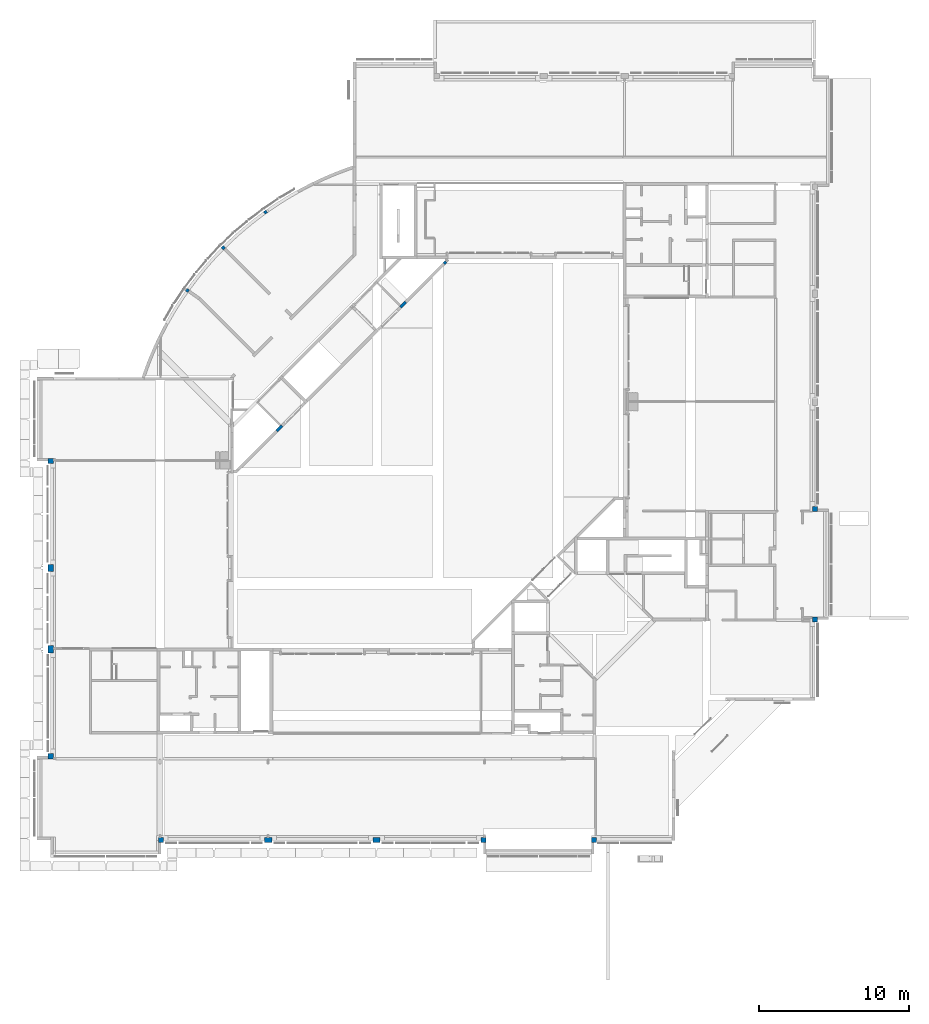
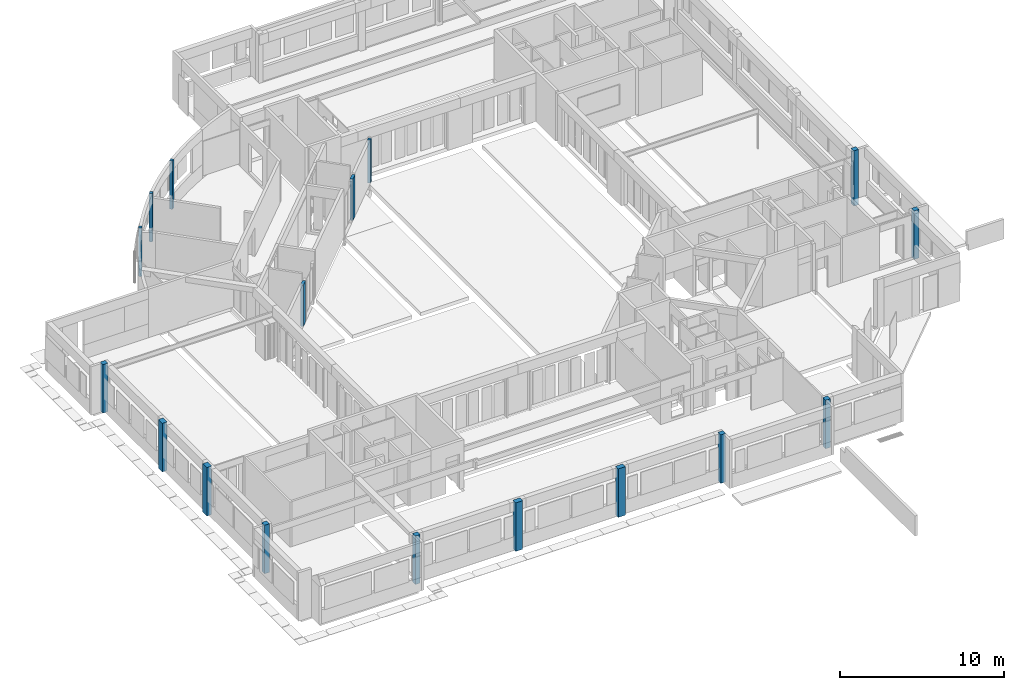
# One storey, part 1 of 30: 17 columns.
"""IFC4X3_ADD2 building model written with IfcOpenShell, lengths in millimetres."""

from ifc_helpers import new_model, si_unit, direction, frame, frame_2d, origin_with_axes, origin_2d_with_axis, place, context, subcontext, project, spatial, rectangle, extrude, source, transform, mapped, material, type_object, type_shapes, element, save


model = new_model("IFC4X3_ADD2")

# Units and contexts
model_context = context("Model", 3, precision=1e-05, world=origin_with_axes(), true_north=direction((0.0, 1.0)))
body_context = subcontext(model_context, "Body", "Model", "MODEL_VIEW")
ifc_project = project(units=[si_unit("LENGTHUNIT", "METRE", prefix="MILLI"), si_unit("AREAUNIT", "SQUARE_METRE"), si_unit("VOLUMEUNIT", "CUBIC_METRE"), si_unit("PLANEANGLEUNIT", "RADIAN"), si_unit("TIMEUNIT", "SECOND"), si_unit("MASSUNIT", "GRAM")], contexts=[model_context])

# Site, building, storey
site_placement = place(None, origin_with_axes())
site = spatial("IfcSite", under=ifc_project, at=site_placement, Name="Site", CompositionType="ELEMENT")
building_placement = place(site_placement, origin_with_axes())
building = spatial("IfcBuilding", under=site, at=building_placement, Name="IFC Building Story")
storey_placement = place(building_placement, origin_with_axes())
storey = spatial("IfcBuildingStorey", under=building, at=storey_placement, Name="000", Elevation=0.0)

# Columns
ifc_material_1 = material(Name="BB_Beton_Bestaand")
column_type_1 = type_object("IfcColumnType", Name="BB_XX_Kolom_ rechthoekig_ center-center_GTL_340 mm x 340 mm15", PredefinedType="NOTDEFINED")
shared_shape_1 = source(origin_with_axes(), body_context, "Body", "SweptSolid", [
    extrude(rectangle(XDim=340.0, YDim=340.000000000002, at=origin_2d_with_axis()), frame((0.0, 0.0, -200.0), z_axis=(0.0, 0.0, 1.0), x_axis=(1.0, 0.0, 0.0)), (0.0, 0.0, 1.0), 3600.0),
])
type_shapes(column_type_1, [shared_shape_1])
for number, where, z_axis, x_axis in (
    (1, (-43425.0, -75.0, 0.0), (0.0, 0.0, 1.0), (1.0, 0.0, 0.0)),
    (2, (-21975.0, -75.0, 0.0), (0.0, 0.0, 1.0), (1.0, 0.0, 0.0)),
    (3, (-14625.0, -75.0, 0.0), (0.0, 0.0, 1.0), (1.0, 0.0, 0.0)),
    (4, (-50775.0, 25155.0, 0.0), (0.0, 0.0, 1.0), (1.0, 0.0, 0.0)),
    (5, (75.0, 14605.0, 0.0), (0.0, 0.0, 1.0), (1.0, 0.0, 0.0)),
    (6, (-50775.0, 5505.0, 0.0), (0.0, 0.0, 1.0), (1.0, 0.0, 0.0)),
):
    element("IfcColumn", number, at=place(storey_placement, frame(where, z_axis=z_axis, x_axis=x_axis)), inside=storey, type_object=column_type_1, material=ifc_material_1, Name="BB_XX_Kolom, rechthoekig, center-center_GTL:340 mm x 340 mm", ObjectType="340 mm x 340 mm", PredefinedType="COLUMN", context=body_context, shape_type="MappedRepresentation", body=[
        mapped(shared_shape_1, transform((0.0, 0.0, 0.0))),
    ])
column_type_2 = type_object("IfcColumnType", Name="BB_XX_Kolom_ rechthoekig_ center-center_GTL_490 mm x 340 mm11", PredefinedType="NOTDEFINED")
shared_shape_2 = source(origin_with_axes(), body_context, "Body", "SweptSolid", [
    extrude(rectangle(XDim=490.0, YDim=340.0, at=origin_2d_with_axis()), frame((0.0, 0.0, -200.0), z_axis=(0.0, 0.0, 1.0), x_axis=(1.0, 0.0, 0.0)), (0.0, 0.0, 1.0), 3600.0),
])
type_shapes(column_type_2, [shared_shape_2])
for number, where, z_axis, x_axis in (
    (7, (-36300.0, -75.0, 0.0), (0.0, 0.0, 1.0), (1.0, 0.0, 0.0)),
    (8, (-29100.0, -75.0, 0.0), (0.0, 0.0, 1.0), (1.0, 0.0, 0.0)),
    (9, (-50775.0, 12630.0, 0.0), (0.0, 0.0, 1.0), (0.0, 1.0, 0.0)),
    (10, (-50775.0, 18030.0, 0.0), (0.0, 0.0, 1.0), (0.0, 1.0, 0.0)),
):
    element("IfcColumn", number, at=place(storey_placement, frame(where, z_axis=z_axis, x_axis=x_axis)), inside=storey, type_object=column_type_2, material=ifc_material_1, Name="BB_XX_Kolom, rechthoekig, center-center_GTL:490 mm x 340 mm", ObjectType="490 mm x 340 mm", PredefinedType="COLUMN", context=body_context, shape_type="MappedRepresentation", body=[
        mapped(shared_shape_2, transform((0.0, 0.0, 0.0))),
    ])
column_type_3 = type_object("IfcColumnType", Name="BB_XX_Kolom_ rechthoekig_ center-center_GTL_200 mm x 200 mm5", PredefinedType="NOTDEFINED")
shared_shape_3 = source(origin_with_axes(), body_context, "Body", "SweptSolid", [
    extrude(rectangle(XDim=200.0000000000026, YDim=199.9999999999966, at=frame_2d((0.0, 0.0), x_axis=(0.5735764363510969, 0.8191520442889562))), frame((-41679.8728215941, 36507.2820318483, -200.0), z_axis=(0.0, 0.0, 1.0), x_axis=(1.0, 0.0, 0.0)), (0.0, 0.0, 1.0), 3600.0),
])
type_shapes(column_type_3, [shared_shape_3])
column_1_placement = place(storey_placement, origin_with_axes())
element("IfcColumn", 11, at=column_1_placement, inside=storey, type_object=column_type_3, material=ifc_material_1, Name="BB_XX_Kolom, rechthoekig, center-center_GTL:200 mm x 200 mm", ObjectType="200 mm x 200 mm", PredefinedType="COLUMN", context=body_context, shape_type="MappedRepresentation", body=[
    mapped(shared_shape_3, transform((0.0, 0.0, 0.0))),
])
column_type_4 = type_object("IfcColumnType", Name="BB_XX_Kolom_ rechthoekig_ center-center_GTL_200 mm x 200 mm7", PredefinedType="NOTDEFINED")
shared_shape_4 = source(origin_with_axes(), body_context, "Body", "SweptSolid", [
    extrude(rectangle(XDim=200.0, YDim=200.0, at=origin_2d_with_axis()), frame((0.0, 0.0, -200.0), z_axis=(0.0, 0.0, 1.0), x_axis=(1.0, 0.0, 0.0)), (0.0, 0.0, 1.0), 3600.0),
])
type_shapes(column_type_4, [shared_shape_4])
for number, where, z_axis, x_axis in (
    (12, (-39289.778820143, 39341.5630046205, 0.0), (0.0, 0.0, 1.0), (0.7071067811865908, -0.7071067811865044, 0.0)),
    (13, (-36482.0163560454, 41709.7599973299, 0.0), (0.0, 0.0, 1.0), (0.5735764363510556, -0.8191520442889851, 0.0)),
):
    element("IfcColumn", number, at=place(storey_placement, frame(where, z_axis=z_axis, x_axis=x_axis)), inside=storey, type_object=column_type_4, material=ifc_material_1, Name="BB_XX_Kolom, rechthoekig, center-center_GTL:200 mm x 200 mm", ObjectType="200 mm x 200 mm", PredefinedType="COLUMN", context=body_context, shape_type="MappedRepresentation", body=[
        mapped(shared_shape_4, transform((0.0, 0.0, 0.0))),
    ])
column_type_5 = type_object("IfcColumnType", Name="BB_XX_Kolom_ rechthoekig_ center-center_GTL_340 mm x 340 mm23", PredefinedType="NOTDEFINED")
shared_shape_5 = source(origin_with_axes(), body_context, "Body", "SweptSolid", [
    extrude(rectangle(XDim=340.0, YDim=340.0, at=origin_2d_with_axis()), frame((75.0, 21955.0, -700.0), z_axis=(0.0, 0.0, 1.0), x_axis=(1.0, 0.0, 0.0)), (0.0, 0.0, 1.0), 4100.0),
])
type_shapes(column_type_5, [shared_shape_5])
column_2_placement = place(storey_placement, origin_with_axes())
element("IfcColumn", 14, at=column_2_placement, inside=storey, type_object=column_type_5, material=ifc_material_1, Name="BB_XX_Kolom, rechthoekig, center-center_GTL:340 mm x 340 mm", ObjectType="340 mm x 340 mm", PredefinedType="COLUMN", context=body_context, shape_type="MappedRepresentation", body=[
    mapped(shared_shape_5, transform((0.0, 0.0, 0.0))),
])
ifc_material_2 = material(Name="Concrete, C30/37")
column_type_6 = type_object("IfcColumnType", Name="BB_XX_Kolom_ rechthoekig_ center-center_GTL_190 mm x 500 mm5", PredefinedType="NOTDEFINED")
shared_shape_6 = source(origin_with_axes(), body_context, "Body", "SweptSolid", [
    extrude(rectangle(XDim=500.0000000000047, YDim=189.9999999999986, at=frame_2d((0.0, 0.0), x_axis=(0.7071067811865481, 0.7071067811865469))), frame((-35559.1307724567, 27335.484910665, -400.0), z_axis=(0.0, 0.0, 1.0), x_axis=(1.0, 0.0, 0.0)), (0.0, 0.0, 1.0), 3070.0),
])
type_shapes(column_type_6, [shared_shape_6])
column_3_placement = place(storey_placement, origin_with_axes())
element("IfcColumn", 15, at=column_3_placement, inside=storey, type_object=column_type_6, material=ifc_material_2, Name="BB_XX_Kolom, rechthoekig, center-center_GTL:190 mm x 500 mm", ObjectType="190 mm x 500 mm", PredefinedType="COLUMN", context=body_context, shape_type="MappedRepresentation", body=[
    mapped(shared_shape_6, transform((0.0, 0.0, 0.0))),
])
column_type_7 = type_object("IfcColumnType", Name="BB_XX_Kolom_ rechthoekig_ center-center_GTL_190 mm x 500 mm7", PredefinedType="NOTDEFINED")
shared_shape_7 = source(origin_with_axes(), body_context, "Body", "SweptSolid", [
    extrude(rectangle(XDim=500.0000000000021, YDim=190.0000000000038, at=frame_2d((0.0, 0.0), x_axis=(0.7071067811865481, 0.7071067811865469))), frame((-27335.4819089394, 35559.1337741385, -400.0), z_axis=(0.0, 0.0, 1.0), x_axis=(1.0, 0.0, 0.0)), (0.0, 0.0, 1.0), 3070.0),
])
type_shapes(column_type_7, [shared_shape_7])
column_4_placement = place(storey_placement, origin_with_axes())
element("IfcColumn", 16, at=column_4_placement, inside=storey, type_object=column_type_7, material=ifc_material_2, Name="BB_XX_Kolom, rechthoekig, center-center_GTL:190 mm x 500 mm", ObjectType="190 mm x 500 mm", PredefinedType="COLUMN", context=body_context, shape_type="MappedRepresentation", body=[
    mapped(shared_shape_7, transform((0.0, 0.0, 0.0))),
])
column_type_8 = type_object("IfcColumnType", Name="BB_XX_Kolom_ rechthoekig_ center-center_GTL_190 mm x 200 mm3", PredefinedType="NOTDEFINED")
shared_shape_8 = source(origin_with_axes(), body_context, "Body", "SweptSolid", [
    extrude(rectangle(XDim=200.0000000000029, YDim=190.0000000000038, at=frame_2d((0.0, 0.0), x_axis=(0.7071067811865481, 0.7071067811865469))), frame((-24540.06754798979, 38354.5481350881, -400.0), z_axis=(0.0, 0.0, 1.0), x_axis=(1.0, 0.0, 0.0)), (0.0, 0.0, 1.0), 3200.0),
])
type_shapes(column_type_8, [shared_shape_8])
column_5_placement = place(storey_placement, origin_with_axes())
element("IfcColumn", 17, at=column_5_placement, inside=storey, type_object=column_type_8, material=ifc_material_2, Name="BB_XX_Kolom, rechthoekig, center-center_GTL:190 mm x 200 mm", ObjectType="190 mm x 200 mm", PredefinedType="COLUMN", context=body_context, shape_type="MappedRepresentation", body=[
    mapped(shared_shape_8, transform((0.0, 0.0, 0.0))),
])

save(model, "model.ifc")
